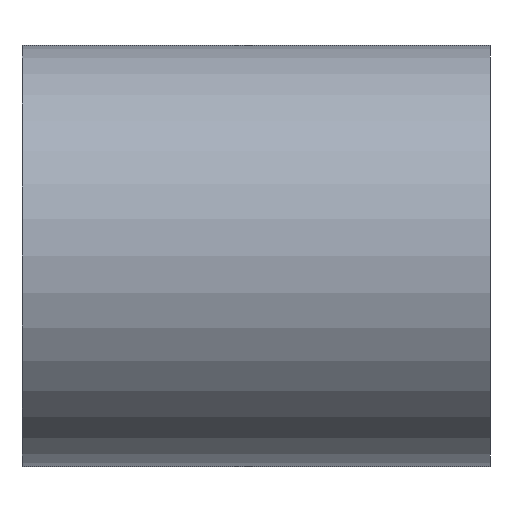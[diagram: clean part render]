
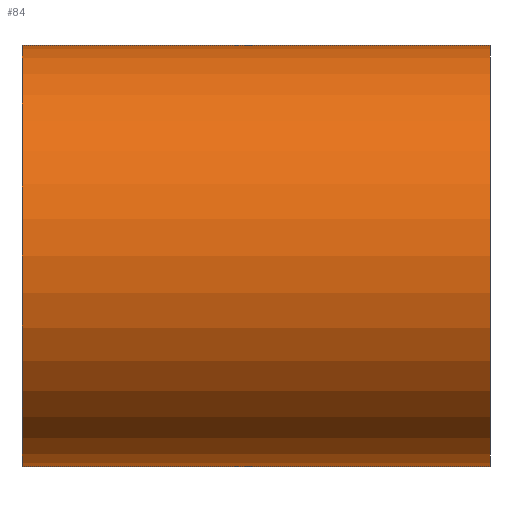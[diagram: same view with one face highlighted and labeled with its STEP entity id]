
A CAD part, front view. The second image highlights one B-rep face of the part: STEP entity #84.
In plain terms, the highlighted cylindrical face has radius 270 mm (diameter 540 mm), a partial arc.
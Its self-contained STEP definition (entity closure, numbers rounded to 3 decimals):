
#84=ADVANCED_FACE('',(#164),#165,.T.);
#164=FACE_OUTER_BOUND('',#255,.T.);
#165=CYLINDRICAL_SURFACE('',#256,270.0);
#255=EDGE_LOOP('',(#435,#436,#437,#438));
#256=AXIS2_PLACEMENT_3D('',#439,#440,#441);
#435=ORIENTED_EDGE('',*,*,#491,.T.);
#436=ORIENTED_EDGE('',*,*,#568,.F.);
#437=ORIENTED_EDGE('',*,*,#493,.T.);
#438=ORIENTED_EDGE('',*,*,#569,.F.);
#439=CARTESIAN_POINT('',(0.0,0.0,0.0));
#440=DIRECTION('',(1.0,0.0,0.0));
#441=DIRECTION('',(0.0,0.0,-1.0));
#491=EDGE_CURVE('',#573,#574,#575,.T.);
#493=EDGE_CURVE('',#578,#576,#579,.T.);
#568=EDGE_CURVE('',#578,#574,#690,.T.);
#569=EDGE_CURVE('',#573,#576,#691,.T.);
#573=VERTEX_POINT('',#695);
#574=VERTEX_POINT('',#696);
#575=LINE('',#697,#698);
#576=VERTEX_POINT('',#699);
#578=VERTEX_POINT('',#701);
#579=LINE('',#702,#703);
#690=CIRCLE('',#832,270.0);
#691=CIRCLE('',#833,270.0);
#695=CARTESIAN_POINT('',(-300.0,0.0,-270.0));
#696=CARTESIAN_POINT('',(300.0,0.0,-270.0));
#697=CARTESIAN_POINT('',(0.0,0.,-270.0));
#698=VECTOR('',#836,1.0);
#699=CARTESIAN_POINT('',(-300.0,0.,270.0));
#701=CARTESIAN_POINT('',(300.0,0.,270.0));
#702=CARTESIAN_POINT('',(0.0,0.,270.0));
#703=VECTOR('',#840,1.0);
#832=AXIS2_PLACEMENT_3D('',#970,#971,#972);
#833=AXIS2_PLACEMENT_3D('',#973,#974,#975);
#836=DIRECTION('',(1.0,0.0,0.0));
#840=DIRECTION('',(-1.0,-0.0,-0.0));
#970=CARTESIAN_POINT('',(300.0,0.0,0.0));
#971=DIRECTION('',(1.0,0.0,0.0));
#972=DIRECTION('',(0.0,0.0,-1.0));
#973=CARTESIAN_POINT('',(-300.0,0.0,0.0));
#974=DIRECTION('',(-1.0,0.0,0.0));
#975=DIRECTION('',(0.0,0.0,-1.0));
